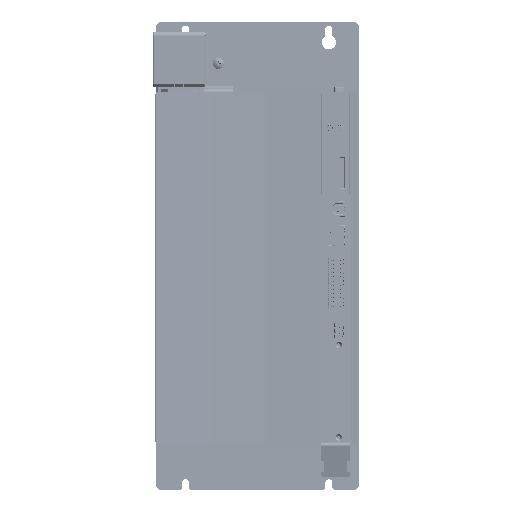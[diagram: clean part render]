
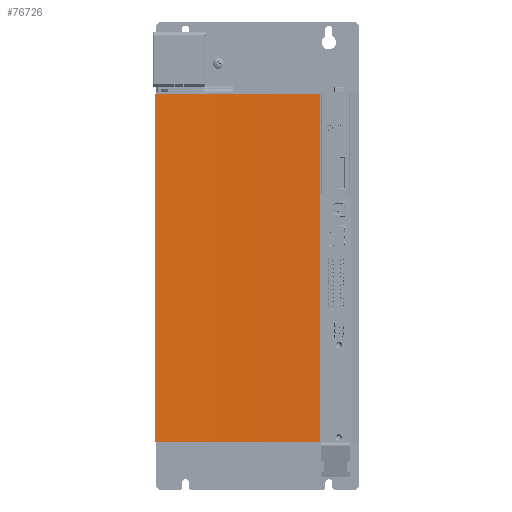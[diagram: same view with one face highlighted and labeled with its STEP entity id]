
A CAD part, front view. The second image highlights one B-rep face of the part: STEP entity #76726.
In plain terms, the highlighted cylindrical face has radius 1125 mm (diameter 2250 mm), a partial arc.
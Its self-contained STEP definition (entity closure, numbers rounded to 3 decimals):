
#76726=ADVANCED_FACE('',(#87083),#82495,.F.);
#82495=CYLINDRICAL_SURFACE('',#227202,1125.);
#87083=FACE_OUTER_BOUND('',#96067,.T.);
#96067=EDGE_LOOP('',(#153053,#153054,#153055,#153056));
#110633=LINE('',#291419,#125734);
#110634=LINE('',#291420,#125735);
#125734=VECTOR('',#251038,1.);
#125735=VECTOR('',#251039,1.);
#153053=ORIENTED_EDGE('',*,*,#204374,.F.);
#153054=ORIENTED_EDGE('',*,*,#204501,.T.);
#153055=ORIENTED_EDGE('',*,*,#204466,.T.);
#153056=ORIENTED_EDGE('',*,*,#204502,.T.);
#185847=VERTEX_POINT('',#291175);
#185848=VERTEX_POINT('',#291177);
#185937=VERTEX_POINT('',#291358);
#185938=VERTEX_POINT('',#291360);
#204374=EDGE_CURVE('',#185847,#185848,#219623,.T.);
#204466=EDGE_CURVE('',#185938,#185937,#219664,.T.);
#204501=EDGE_CURVE('',#185847,#185938,#110633,.T.);
#204502=EDGE_CURVE('',#185937,#185848,#110634,.T.);
#219623=CIRCLE('',#227142,1125.);
#219664=CIRCLE('',#227184,1125.);
#227142=AXIS2_PLACEMENT_3D('',#291176,#250841,#250842);
#227184=AXIS2_PLACEMENT_3D('',#291359,#250976,#250977);
#227202=AXIS2_PLACEMENT_3D('',#291421,#251040,#251041);
#250841=DIRECTION('',(0.,0.,-1.));
#250842=DIRECTION('',(1.,0.,0.));
#250976=DIRECTION('',(0.,0.,-1.));
#250977=DIRECTION('',(1.,0.,0.));
#251038=DIRECTION('',(0.,0.,-1.));
#251039=DIRECTION('',(0.,0.,1.));
#251040=DIRECTION('',(0.,0.,-1.));
#251041=DIRECTION('',(-1.,0.,0.));
#291175=CARTESIAN_POINT('',(-28.018,27.498,243.297));
#291176=CARTESIAN_POINT('',(56.944,-1094.289,243.297));
#291177=CARTESIAN_POINT('',(109.444,29.485,243.297));
#291358=CARTESIAN_POINT('',(109.444,29.485,-48.703));
#291359=CARTESIAN_POINT('',(56.944,-1094.289,-48.703));
#291360=CARTESIAN_POINT('',(-28.018,27.498,-48.703));
#291419=CARTESIAN_POINT('',(-28.018,27.498,243.297));
#291420=CARTESIAN_POINT('',(109.444,29.485,-74.867));
#291421=CARTESIAN_POINT('',(56.944,-1094.289,243.297));
